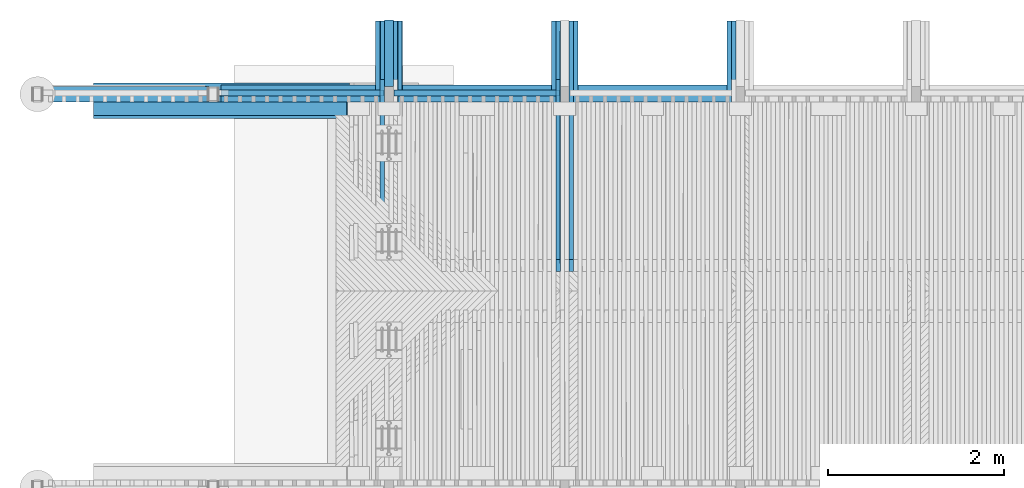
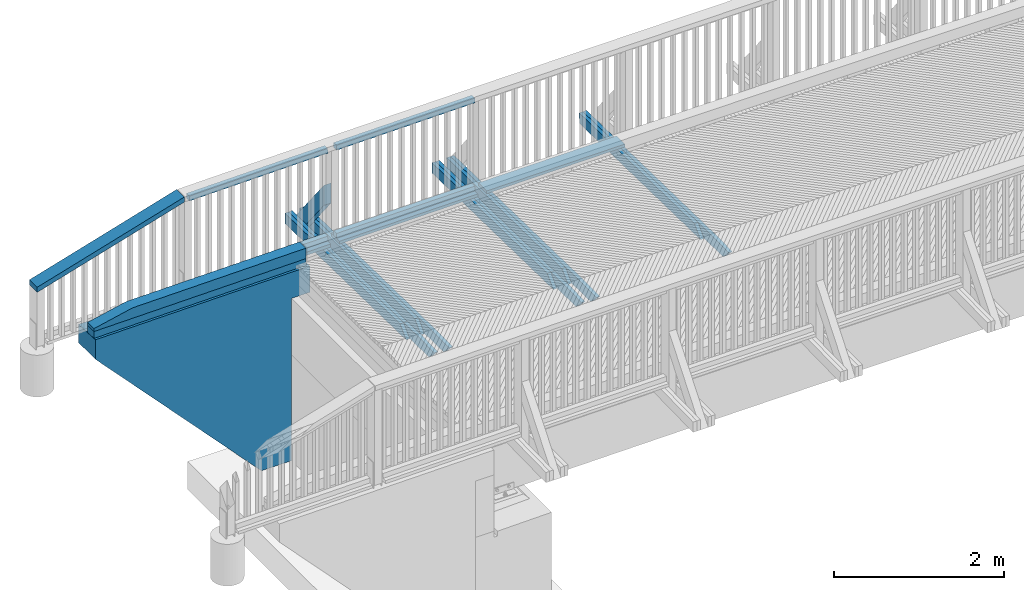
# One storey, part 21 of 53: 23 beams, 1 member.
"""IFC2X3 building model written with IfcOpenShell, lengths in millimetres."""

from ifc_helpers import new_model, si_unit, frame, origin_with_axes, place, context, subcontext, project, spatial, faceted_brep, material, type_object, element, save


model = new_model("IFC2X3")

# Units and contexts
model_context = context("Model", 3, precision=1e-05, world=origin_with_axes())
body_context = subcontext(model_context, "Body", "Model", "MODEL_VIEW")
ifc_project = project(units=[si_unit("LENGTHUNIT", "METRE", prefix="MILLI"), si_unit("AREAUNIT", "SQUARE_METRE"), si_unit("VOLUMEUNIT", "CUBIC_METRE"), si_unit("MASSUNIT", "GRAM", prefix="KILO"), si_unit("TIMEUNIT", "SECOND"), si_unit("PLANEANGLEUNIT", "RADIAN"), si_unit("SOLIDANGLEUNIT", "STERADIAN"), si_unit("THERMODYNAMICTEMPERATUREUNIT", "DEGREE_CELSIUS"), si_unit("LUMINOUSINTENSITYUNIT", "LUMEN")], contexts=[model_context])

# Site, building, storey
site_placement = place(None, origin_with_axes())
site = spatial("IfcSite", under=ifc_project, at=site_placement, Name="Undefined", CompositionType="ELEMENT")
building_placement = place(site_placement, origin_with_axes())
building = spatial("IfcBuilding", under=site, at=building_placement, Name="Undefined", CompositionType="ELEMENT")
storey_placement = place(building_placement, origin_with_axes())
storey = spatial("IfcBuildingStorey", under=building, at=storey_placement, Name="Undefined", CompositionType="ELEMENT", Elevation=0.0)

# Beams
ifc_material_1 = material(Name="TIMBER/Timber_Undefined")
beam_type_1 = type_object("IfcBeamType", Name="150*100", PredefinedType="NOTDEFINED")
beam_1_placement = place(storey_placement, frame((-3364.03058800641, 44439.9999999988, 3118.67572907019), z_axis=(0.0, -1.0, 0.0), x_axis=(0.999904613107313, 0.0, 0.0138117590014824)))
element("IfcBeam", 1, at=beam_1_placement, inside=storey, type_object=beam_type_1, material=ifc_material_1, Name="TÖRMÄYSJOHDE", ObjectType="150*100", context=body_context, shape_type="Brep", body=[
    faceted_brep([(-3.63797880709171e-12, 50.0, -75.0), (-3.63797880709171e-12, 50.0, 75.0), (2885.27521749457, 50.0, 75.0), (2885.27521749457, 50.0, -75.0), (0.0, -49.9999999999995, 75.0), (2885.27521749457, -49.9999999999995, 75.0), (0.0, -49.9999999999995, -75.0), (2885.27521749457, -49.9999999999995, -75.0)], [[[0, 1, 2, 3]], [[1, 4, 5, 2]], [[4, 6, 7, 5]], [[6, 0, 3, 7]], [[5, 7, 3, 2]], [[6, 4, 1, 0]]]),
])
beam_type_2 = type_object("IfcBeamType", Name="150*150", PredefinedType="NOTDEFINED")
beam_2_placement = place(storey_placement, frame((-3366.03588197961, 44439.9999999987, 3243.66334439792), z_axis=(0.0, -1.0, 0.0), x_axis=(0.999904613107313, 0.0, 0.0138117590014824)))
element("IfcBeam", 2, at=beam_2_placement, inside=storey, type_object=beam_type_2, material=ifc_material_1, Name="TÖRMÄYSJOHDE", ObjectType="150*150", context=body_context, shape_type="Brep", body=[
    faceted_brep([(0.0, -75.0000000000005, 75.0), (0.0, -75.0000000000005, -75.0), (2885.27521749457, -74.9999999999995, -75.0), (2885.27521749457, -74.9999999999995, 75.0), (2885.27521749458, 75.0, -75.0), (2885.27521749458, 75.0, 75.0), (529.511118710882, 75.0, -75.0), (529.511118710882, 75.0, 75.0), (4.54747350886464e-13, -33.1222400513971, 75.0), (4.54747350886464e-13, -33.1222400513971, -75.0)], [[[0, 1, 2, 3]], [[3, 2, 4, 5]], [[5, 4, 6, 7]], [[0, 3, 5, 7, 8]], [[1, 0, 8, 9]], [[4, 2, 1, 9, 6]], [[8, 7, 6, 9]]]),
])
ifc_material_2 = material(Name="CONCRETE/Concrete_Undefined")
beam_type_3 = type_object("IfcBeamType", Name="2800*400", PredefinedType="NOTDEFINED")
beam_3_placement = place(storey_placement, frame((-430.340033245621, 44530.0, 1712.66804762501), z_axis=(-0.0140428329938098, 0.0, 0.999901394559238), x_axis=(-0.999901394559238, 0.0, -0.0140428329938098)))
element("IfcBeam", 3, at=beam_3_placement, inside=storey, type_object=beam_type_3, material=ifc_material_2, Name="SIIPIMUURI", ObjectType="2800*400", context=body_context, shape_type="Brep", body=[
    faceted_brep([(5.63100911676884e-07, 200.0, 1400.0), (0.280884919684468, -200.000000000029, 1380.0), (2915.56834818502, -200.0, 1380.0), (2915.28746382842, 200.0, 1400.0), (270.457242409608, 199.999999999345, -54.8754727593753), (270.457242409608, -200.0, -54.8754727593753), (255.29098277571, -200.0, 1025.01803336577), (255.29098277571, 199.999999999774, 1025.01803336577), (288.066954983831, 200.0, -1308.75182153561), (288.066954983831, -200.0, -1308.75182153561), (697.173583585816, 200.0, -1303.00623892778), (697.173583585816, -200.0, -1303.00623892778), (2919.22031514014, 200.0, 1119.96651154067), (2919.22031514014, -200.0, 1119.96651154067), (5.31563413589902, -200.0, 1021.50732511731), (5.31563413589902, 199.999999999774, 1021.50732511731)], [[[0, 1, 2, 3]], [[4, 5, 6, 7]], [[8, 9, 5, 4]], [[10, 11, 9, 8]], [[12, 13, 11, 10]], [[13, 12, 3, 2]], [[14, 6, 5, 9, 11, 13, 2, 1]], [[7, 6, 14, 15]], [[3, 12, 10, 8, 4, 7, 15, 0]], [[15, 14, 1, 0]]]),
])

# Member
member_type = type_object("IfcMemberType", Name="180*100", PredefinedType="NOTDEFINED")
member_placement = place(storey_placement, frame((0.0063475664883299, 45378.7683991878, 2900.91787464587), z_axis=(0.0, 0.783926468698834, 0.620853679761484), x_axis=(-4.01699999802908e-06, -0.620853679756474, 0.78392646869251)))
element("IfcMember", 4, at=member_placement, inside=storey, type_object=member_type, material=ifc_material_1, Name="KAIDEPYLVÄS", ObjectType="180*100", context=body_context, shape_type="Brep", body=[
    faceted_brep([(0.0, 50.0, -89.9999999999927), (0.0, 50.0, 90.0), (1214.99440716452, 50.0, 90.0000000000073), (987.715792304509, 50.0, -89.9999999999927), (0.0, -49.9999999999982, 90.0000000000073), (1214.99480886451, -50.0, 90.0000000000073), (-3.63797880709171e-12, -49.9999999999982, -90.0), (987.716194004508, -49.9999999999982, -89.9999999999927)], [[[0, 1, 2, 3]], [[1, 4, 5, 2]], [[4, 6, 7, 5]], [[6, 0, 3, 7]], [[5, 7, 3, 2]], [[6, 4, 1, 0]]]),
])

# Beams
beam_type_4 = type_object("IfcBeamType", Name="70*70", PredefinedType="NOTDEFINED")
beam_4_placement = place(storey_placement, frame((-1909.4703719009, 44619.9900299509, 3186.87116342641), z_axis=(0.0, 1.0, 0.0), x_axis=(0.999883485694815, 0.0, 0.0152648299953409)))
element("IfcBeam", 5, at=beam_4_placement, inside=storey, type_object=beam_type_4, material=ifc_material_1, Name="BEAM", ObjectType="70*70", context=body_context, shape_type="Brep", body=[
    faceted_brep([(-3.63797880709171e-12, 35.0000000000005, -35.0), (-3.63797880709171e-12, 35.0000000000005, 35.0), (1850.22135781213, 34.9999999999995, 35.0), (1850.22135781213, 34.9999999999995, -35.0), (-3.63797880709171e-12, -34.9999999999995, 35.0), (1850.22135781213, -35.0, 35.0), (-3.63797880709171e-12, -34.9999999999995, -35.0), (1850.22135781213, -35.0, -35.0)], [[[0, 1, 2, 3]], [[1, 4, 5, 2]], [[4, 6, 7, 5]], [[6, 0, 3, 7]], [[5, 7, 3, 2]], [[6, 4, 1, 0]]]),
])
beam_5_placement = place(storey_placement, frame((-1939.46687647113, 44619.9900299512, 4446.41321852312), z_axis=(0.0, 1.0, 0.0), x_axis=(0.999883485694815, 0.0, 0.0152648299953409)))
element("IfcBeam", 6, at=beam_5_placement, inside=storey, type_object=beam_type_4, material=ifc_material_1, Name="BEAM", ObjectType="70*70", context=body_context, shape_type="Brep", body=[
    faceted_brep([(-3.63797880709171e-12, 35.0000000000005, -35.0), (-3.63797880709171e-12, 35.0000000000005, 35.0), (1880.22135781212, 35.0000000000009, 35.0), (1880.22135781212, 35.0000000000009, -35.0), (-3.63797880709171e-12, -34.9999999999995, 35.0), (1880.22135781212, -35.0, 35.0), (-3.63797880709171e-12, -34.9999999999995, -35.0), (1880.22135781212, -35.0, -35.0)], [[[0, 1, 2, 3]], [[1, 4, 5, 2]], [[4, 6, 7, 5]], [[6, 0, 3, 7]], [[5, 7, 3, 2]], [[6, 4, 1, 0]]]),
])
for number, where, z_axis, x_axis, name in (
    (7, (60.4266460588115, 44619.9900555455, 3210.38471475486), (0.0, 1.0, 0.0), (0.999925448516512, 0.0, 0.0122105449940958), "BEAM"),
    (8, (60.4266460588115, 44619.9900555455, 4475.38471475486), (0.0, 1.0, 0.0), (0.999925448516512, 0.0, 0.0122105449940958), "BEAM"),
):
    element("IfcBeam", number, at=place(storey_placement, frame(where, z_axis=z_axis, x_axis=x_axis)), inside=storey, type_object=beam_type_4, material=ifc_material_1, Name=name, ObjectType="70*70", context=body_context, shape_type="Brep", body=[
        faceted_brep([(-3.63797880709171e-12, 35.0000000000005, -35.0), (-3.63797880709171e-12, 35.0000000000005, 35.0), (1880.14172547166, 34.9999999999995, 35.0), (1880.14172547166, 34.9999999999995, -35.0), (-3.63797880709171e-12, -34.9999999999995, 35.0), (1880.14172547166, -35.0000000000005, 35.0), (-3.63797880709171e-12, -34.9999999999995, -35.0), (1880.14172547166, -35.0000000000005, -35.0)], [[[0, 1, 2, 3]], [[1, 4, 5, 2]], [[4, 6, 7, 5]], [[6, 0, 3, 7]], [[5, 7, 3, 2]], [[6, 4, 1, 0]]]),
    ])
beam_type_5 = type_object("IfcBeamType", Name="195*40", PredefinedType="NOTDEFINED")
for number, where, z_axis, x_axis, name in (
    (9, (2059.92831112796, 44612.4900002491, 3178.55418737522), (0.0, 1.0, 0.0), (0.999961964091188, 0.0, 0.00872183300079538), "BEAM"),
    (10, (60.2419045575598, 44612.4900555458, 3155.38760669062), (0.0, 1.0, 0.0), (0.999925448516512, 0.0, 0.0122105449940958), "BEAM"),
):
    element("IfcBeam", number, at=place(storey_placement, frame(where, z_axis=z_axis, x_axis=x_axis)), inside=storey, type_object=beam_type_5, material=ifc_material_1, Name=name, ObjectType="195*40", context=body_context, shape_type="Brep", body=[
        faceted_brep([(0.0, 20.0, -97.5), (0.0, 20.0, 97.5), (1880.22135781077, 19.9999999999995, 97.5), (1880.22135781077, 19.9999999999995, -97.5), (3.63797880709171e-12, -20.0, 97.5), (1880.22135781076, -20.0000000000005, 97.5), (3.63797880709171e-12, -20.0, -97.5), (1880.22135781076, -20.0000000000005, -97.5)], [[[0, 1, 2, 3]], [[1, 4, 5, 2]], [[4, 6, 7, 5]], [[6, 0, 3, 7]], [[5, 7, 3, 2]], [[6, 4, 1, 0]]]),
    ])
beam_type_6 = type_object("IfcBeamType", Name="180*70", PredefinedType="NOTDEFINED")
beam_6_placement = place(storey_placement, frame((-2039.93420243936, 44605.0099640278, 4517.05500293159), z_axis=(0.0, -1.0, 0.0), x_axis=(-0.958243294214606, 0.0, -0.285954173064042)))
element("IfcBeam", 11, at=beam_6_placement, inside=storey, type_object=beam_type_6, material=ifc_material_1, Name="YLÄJOHDE", ObjectType="180*70", context=body_context, shape_type="Brep", body=[
    faceted_brep([(41.6879268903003, 35.0699417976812, -90.0), (41.8028913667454, -34.9299637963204, -90.0), (0.059877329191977, -34.9999487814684, -90.0), (20.9594530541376, 35.0351891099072, -90.0), (41.8028913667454, -34.9299637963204, 90.0), (41.6879268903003, 35.0699417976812, 90.0), (20.9594530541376, 35.0351891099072, 90.0), (0.059877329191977, -34.9999487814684, 90.0), (83.4357358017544, 35.1370779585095, 90.0), (83.4357358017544, 35.1370779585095, -90.0), (83.5459100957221, -34.8628353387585, -90.0), (83.5459100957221, -34.8628353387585, 90.0), (125.288933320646, -34.7985634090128, 90.0), (125.183549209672, 35.2013572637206, 90.0), (125.183549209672, 35.2013572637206, -90.0), (125.288933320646, -34.7985634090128, -90.0), (167.031960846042, -34.7371480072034, -90.0), (167.031960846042, -34.7371480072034, 90.0), (166.931366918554, 35.2627797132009, 90.0), (166.931366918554, 35.2627797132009, -90.0), (208.679188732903, 35.3213453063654, -90.0), (208.774992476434, -34.6785891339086, -90.0), (208.774992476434, -34.6785891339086, 90.0), (208.679188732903, 35.3213453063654, 90.0), (250.427014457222, 35.3770540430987, 90.0), (250.427014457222, 35.3770540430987, -90.0), (250.518028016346, -34.6228867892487, -90.0), (250.518028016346, -34.6228867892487, 90.0), (292.261067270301, -34.57004097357, 90.0), (292.17484389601, 35.4299059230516, 90.0), (292.17484389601, 35.4299059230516, -90.0), (292.261067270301, -34.57004097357, -90.0), (334.004110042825, -34.5200516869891, -90.0), (334.004110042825, -34.5200516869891, 90.0), (333.922676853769, 35.4799009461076, 90.0), (333.922676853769, 35.4799009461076, -90.0), (375.670513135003, 35.527039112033, -90.0), (375.747156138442, -34.4729189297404, -90.0), (375.747156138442, -34.4729189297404, 90.0), (375.670513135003, 35.527039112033, 90.0), (417.418352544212, 35.5713204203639, 90.0), (417.418352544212, 35.5713204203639, -90.0), (417.490205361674, -34.428642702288, -90.0), (417.490205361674, -34.428642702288, 90.0), (459.233257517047, -34.3872230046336, 90.0), (459.166194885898, 35.6127448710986, 90.0), (459.166194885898, 35.6127448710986, -90.0), (459.233257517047, -34.3872230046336, -90.0), (500.976312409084, -34.3486598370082, -90.0), (500.976312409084, -34.3486598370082, 90.0), (500.914039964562, 35.651312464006, 90.0), (500.914039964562, 35.651312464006, -90.0), (542.661887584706, 35.6870231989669, -90.0), (542.71936984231, -34.3129531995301, -90.0), (542.71936984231, -34.3129531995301, 90.0), (542.661887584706, 35.6870231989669, 90.0), (584.409737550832, 35.7198770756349, 90.0), (584.409737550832, 35.7198770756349, -90.0), (584.462429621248, -34.2801030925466, -90.0), (584.462429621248, -34.2801030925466, 90.0), (626.205491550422, -34.2501095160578, 90.0), (626.157589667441, 35.7498740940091, 90.0), (626.157589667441, 35.7498740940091, -90.0), (626.205491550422, -34.2501095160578, -90.0), (667.948555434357, -34.222972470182, -90.0), (667.948555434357, -34.222972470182, 90.0), (667.905443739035, 35.777014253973, 90.0), (667.905443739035, 35.777014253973, -90.0), (709.653299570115, 35.801297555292, -90.0), (709.691621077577, -34.19869195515, -90.0), (709.691621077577, -34.19869195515, 90.0), (709.653299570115, 35.801297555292, 90.0), (751.401156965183, 35.8227239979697, 90.0), (751.401156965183, 35.8227239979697, -90.0), (751.434688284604, -34.1772679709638, -90.0), (751.434688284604, -34.1772679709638, 90.0), (793.177756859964, -34.1587005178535, 90.0), (793.14901572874, 35.8412935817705, 90.0), (793.14901572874, 35.8412935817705, -90.0), (793.177756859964, -34.1587005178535, -90.0), (834.920826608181, -34.1429895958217, -90.0), (834.920826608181, -34.1429895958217, 90.0), (834.896875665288, 35.8570063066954, 90.0), (834.896875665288, 35.8570063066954, -90.0), (876.644736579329, 35.8698621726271, -90.0), (876.663897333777, -34.1301352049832, -90.0), (876.663897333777, -34.1301352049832, 90.0), (876.644736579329, 35.8698621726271, 90.0), (918.392598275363, 35.8798611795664, 90.0), (918.392598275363, 35.8798611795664, -90.0), (918.406968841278, -34.1201373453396, -90.0), (918.406968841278, -34.1201373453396, 90.0), (960.150040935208, -34.1129960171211, 90.0), (960.140460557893, 35.8870033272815, 90.0), (960.140460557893, 35.8870033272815, -90.0), (960.150040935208, -34.1129960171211, -90.0), (1001.89311342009, -34.1087112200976, -90.0), (1001.89311342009, -34.1087112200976, 90.0), (1001.88832323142, 35.8912886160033, 90.0), (1001.88832323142, 35.8912886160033, -90.0), (1043.63618610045, 35.8927170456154, -90.0), (1043.63618610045, -34.1072829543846, -90.0), (1043.63618610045, -34.1072829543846, 90.0), (1043.63618610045, 35.8927170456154, 90.0), (1085.38404896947, 35.8912886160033, 90.0), (1085.38404896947, 35.8912886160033, -90.0), (1085.3792587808, -34.1087112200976, -90.0), (1085.3792587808, -34.1087112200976, 90.0), (1127.12233126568, -34.1129960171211, 90.0), (1127.131911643, 35.8870033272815, 90.0), (1127.131911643, 35.8870033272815, -90.0), (1127.12233126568, -34.1129960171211, -90.0), (1168.86540335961, -34.1201373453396, -90.0), (1168.86540335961, -34.1201373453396, 90.0), (1168.87977392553, 35.8798611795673, 90.0), (1168.87977392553, 35.8798611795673, -90.0), (1210.62763562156, 35.8698621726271, -90.0), (1210.60847486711, -34.1301352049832, -90.0), (1210.60847486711, -34.1301352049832, 90.0), (1210.62763562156, 35.8698621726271, 90.0), (1252.3754965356, 35.8570063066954, 90.0), (1252.3754965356, 35.8570063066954, -90.0), (1252.35154559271, -34.1429895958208, -90.0), (1252.35154559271, -34.1429895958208, 90.0), (1294.09461534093, -34.1587005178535, 90.0), (1294.12335647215, 35.8412935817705, 90.0), (1294.12335647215, 35.8412935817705, -90.0), (1294.09461534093, -34.1587005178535, -90.0), (1335.83768391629, -34.1772679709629, -90.0), (1335.83768391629, -34.1772679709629, 90.0), (1335.87121523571, 35.8227239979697, 90.0), (1335.87121523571, 35.8227239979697, -90.0), (1377.61907263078, 35.8012975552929, -90.0), (1377.58075112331, -34.1986919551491, -90.0), (1377.58075112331, -34.1986919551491, 90.0), (1377.61907263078, 35.8012975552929, 90.0), (1419.36692846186, 35.777014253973, 90.0), (1419.36692846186, 35.777014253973, -90.0), (1419.32381676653, -34.222972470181, -90.0), (1419.32381676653, -34.222972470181, 90.0), (1461.06688065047, -34.2501095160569, 90.0), (1461.11478253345, 35.7498740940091, 90.0), (1461.11478253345, 35.7498740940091, -90.0), (1461.06688065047, -34.2501095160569, -90.0), (1502.80994257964, -34.2801030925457, -90.0), (1502.80994257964, -34.2801030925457, 90.0), (1502.86263465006, 35.7198770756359, 90.0), (1502.86263465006, 35.7198770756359, -90.0), (1544.61048461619, 35.6870231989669, -90.0), (1544.55300235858, -34.3129531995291, -90.0), (1544.55300235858, -34.3129531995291, 90.0), (1544.61048461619, 35.6870231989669, 90.0), (1586.35833223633, 35.6513124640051, 90.0), (1586.35833223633, 35.6513124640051, -90.0), (1586.29605979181, -34.3486598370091, -90.0), (1586.29605979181, -34.3486598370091, 90.0), (1628.03911468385, -34.3872230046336, 90.0), (1628.10617731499, 35.6127448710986, 90.0), (1628.10617731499, 35.6127448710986, -90.0), (1628.03911468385, -34.3872230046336, -90.0), (1669.78216683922, -34.428642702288, -90.0), (1669.78216683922, -34.428642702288, 90.0), (1669.85401965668, 35.5713204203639, 90.0), (1669.85401965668, 35.5713204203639, -90.0), (1711.60185906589, 35.527039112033, -90.0), (1711.52521606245, -34.4729189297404, -90.0), (1711.52521606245, -34.4729189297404, 90.0), (1711.60185906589, 35.527039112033, 90.0), (1753.34969534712, 35.4799009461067, 90.0), (1753.34969534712, 35.4799009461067, -90.0), (1753.26826215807, -34.5200516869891, -90.0), (1753.26826215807, -34.5200516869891, 90.0), (1795.01130493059, -34.5700409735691, 90.0), (1795.09752830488, 35.4299059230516, 90.0), (1795.09752830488, 35.4299059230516, -90.0), (1795.01130493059, -34.5700409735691, -90.0), (1836.75434418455, -34.6228867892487, -90.0), (1836.75434418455, -34.6228867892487, 90.0), (1836.84535774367, 35.3770540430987, 90.0), (1836.84535774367, 35.3770540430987, -90.0), (1878.59318346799, 35.3213453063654, -90.0), (1878.49737972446, -34.6785891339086, -90.0), (1878.49737972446, -34.6785891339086, 90.0), (1878.59318346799, 35.3213453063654, 90.0), (1920.34100528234, 35.2627797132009, 90.0), (1920.34100528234, 35.2627797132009, -90.0), (1920.24041135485, -34.7371480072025, -90.0), (1920.24041135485, -34.7371480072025, 90.0), (1961.98343888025, -34.7985634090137, 90.0), (1962.08882299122, 35.2013572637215, 90.0), (1962.08882299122, 35.2013572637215, -90.0), (1961.98343888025, -34.7985634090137, -90.0), (2003.72646210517, -34.8628353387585, -90.0), (2003.72646210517, -34.8628353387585, 90.0), (2003.83663639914, 35.1370779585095, 90.0), (2003.83663639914, 35.1370779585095, -90.0), (2045.58444531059, 35.0699417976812, -90.0), (2045.46948083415, -34.9299637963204, -90.0), (2045.46948083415, -34.9299637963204, 90.0), (2045.58444531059, 35.0699417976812, 90.0), (2087.33224953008, 34.9999487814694, 90.0), (2087.33224953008, 34.9999487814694, -90.0), (2087.2124948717, -34.9999487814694, -90.0), (2087.2124948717, -34.9999487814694, 90.0), (2108.09074494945, 34.9637252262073, 90.0), (2108.09074494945, 34.9637252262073, -90.0)], [[[0, 1, 2, 3]], [[4, 5, 6, 7]], [[1, 4, 7, 2]], [[6, 3, 2, 7]], [[5, 0, 3, 6]], [[0, 5, 8, 9]], [[1, 0, 9, 10]], [[4, 1, 10, 11]], [[5, 4, 11, 8]], [[8, 11, 12, 13]], [[9, 8, 13, 14]], [[10, 9, 14, 15]], [[11, 10, 15, 12]], [[12, 15, 16, 17]], [[13, 12, 17, 18]], [[14, 13, 18, 19]], [[15, 14, 19, 16]], [[16, 19, 20, 21]], [[17, 16, 21, 22]], [[18, 17, 22, 23]], [[19, 18, 23, 20]], [[20, 23, 24, 25]], [[21, 20, 25, 26]], [[22, 21, 26, 27]], [[23, 22, 27, 24]], [[24, 27, 28, 29]], [[25, 24, 29, 30]], [[26, 25, 30, 31]], [[27, 26, 31, 28]], [[28, 31, 32, 33]], [[29, 28, 33, 34]], [[30, 29, 34, 35]], [[31, 30, 35, 32]], [[32, 35, 36, 37]], [[33, 32, 37, 38]], [[34, 33, 38, 39]], [[35, 34, 39, 36]], [[36, 39, 40, 41]], [[37, 36, 41, 42]], [[38, 37, 42, 43]], [[39, 38, 43, 40]], [[40, 43, 44, 45]], [[41, 40, 45, 46]], [[42, 41, 46, 47]], [[43, 42, 47, 44]], [[44, 47, 48, 49]], [[45, 44, 49, 50]], [[46, 45, 50, 51]], [[47, 46, 51, 48]], [[48, 51, 52, 53]], [[49, 48, 53, 54]], [[50, 49, 54, 55]], [[51, 50, 55, 52]], [[52, 55, 56, 57]], [[53, 52, 57, 58]], [[54, 53, 58, 59]], [[55, 54, 59, 56]], [[56, 59, 60, 61]], [[57, 56, 61, 62]], [[58, 57, 62, 63]], [[59, 58, 63, 60]], [[60, 63, 64, 65]], [[61, 60, 65, 66]], [[62, 61, 66, 67]], [[63, 62, 67, 64]], [[64, 67, 68, 69]], [[65, 64, 69, 70]], [[66, 65, 70, 71]], [[67, 66, 71, 68]], [[68, 71, 72, 73]], [[69, 68, 73, 74]], [[70, 69, 74, 75]], [[71, 70, 75, 72]], [[72, 75, 76, 77]], [[73, 72, 77, 78]], [[74, 73, 78, 79]], [[75, 74, 79, 76]], [[76, 79, 80, 81]], [[77, 76, 81, 82]], [[78, 77, 82, 83]], [[79, 78, 83, 80]], [[80, 83, 84, 85]], [[81, 80, 85, 86]], [[82, 81, 86, 87]], [[83, 82, 87, 84]], [[84, 87, 88, 89]], [[85, 84, 89, 90]], [[86, 85, 90, 91]], [[87, 86, 91, 88]], [[88, 91, 92, 93]], [[89, 88, 93, 94]], [[90, 89, 94, 95]], [[91, 90, 95, 92]], [[92, 95, 96, 97]], [[93, 92, 97, 98]], [[94, 93, 98, 99]], [[95, 94, 99, 96]], [[96, 99, 100, 101]], [[97, 96, 101, 102]], [[98, 97, 102, 103]], [[99, 98, 103, 100]], [[100, 103, 104, 105]], [[101, 100, 105, 106]], [[102, 101, 106, 107]], [[103, 102, 107, 104]], [[104, 107, 108, 109]], [[105, 104, 109, 110]], [[106, 105, 110, 111]], [[107, 106, 111, 108]], [[108, 111, 112, 113]], [[109, 108, 113, 114]], [[110, 109, 114, 115]], [[111, 110, 115, 112]], [[112, 115, 116, 117]], [[113, 112, 117, 118]], [[114, 113, 118, 119]], [[115, 114, 119, 116]], [[116, 119, 120, 121]], [[117, 116, 121, 122]], [[118, 117, 122, 123]], [[119, 118, 123, 120]], [[120, 123, 124, 125]], [[121, 120, 125, 126]], [[122, 121, 126, 127]], [[123, 122, 127, 124]], [[124, 127, 128, 129]], [[125, 124, 129, 130]], [[126, 125, 130, 131]], [[127, 126, 131, 128]], [[128, 131, 132, 133]], [[129, 128, 133, 134]], [[130, 129, 134, 135]], [[131, 130, 135, 132]], [[132, 135, 136, 137]], [[133, 132, 137, 138]], [[134, 133, 138, 139]], [[135, 134, 139, 136]], [[136, 139, 140, 141]], [[137, 136, 141, 142]], [[138, 137, 142, 143]], [[139, 138, 143, 140]], [[140, 143, 144, 145]], [[141, 140, 145, 146]], [[142, 141, 146, 147]], [[143, 142, 147, 144]], [[144, 147, 148, 149]], [[145, 144, 149, 150]], [[146, 145, 150, 151]], [[147, 146, 151, 148]], [[148, 151, 152, 153]], [[149, 148, 153, 154]], [[150, 149, 154, 155]], [[151, 150, 155, 152]], [[152, 155, 156, 157]], [[153, 152, 157, 158]], [[154, 153, 158, 159]], [[155, 154, 159, 156]], [[156, 159, 160, 161]], [[157, 156, 161, 162]], [[158, 157, 162, 163]], [[159, 158, 163, 160]], [[160, 163, 164, 165]], [[161, 160, 165, 166]], [[162, 161, 166, 167]], [[163, 162, 167, 164]], [[164, 167, 168, 169]], [[165, 164, 169, 170]], [[166, 165, 170, 171]], [[167, 166, 171, 168]], [[168, 171, 172, 173]], [[169, 168, 173, 174]], [[170, 169, 174, 175]], [[171, 170, 175, 172]], [[172, 175, 176, 177]], [[173, 172, 177, 178]], [[174, 173, 178, 179]], [[175, 174, 179, 176]], [[176, 179, 180, 181]], [[177, 176, 181, 182]], [[178, 177, 182, 183]], [[179, 178, 183, 180]], [[180, 183, 184, 185]], [[181, 180, 185, 186]], [[182, 181, 186, 187]], [[183, 182, 187, 184]], [[184, 187, 188, 189]], [[185, 184, 189, 190]], [[186, 185, 190, 191]], [[187, 186, 191, 188]], [[188, 191, 192, 193]], [[189, 188, 193, 194]], [[190, 189, 194, 195]], [[191, 190, 195, 192]], [[192, 195, 196, 197]], [[193, 192, 197, 198]], [[194, 193, 198, 199]], [[195, 194, 199, 196]], [[196, 199, 200, 201]], [[197, 196, 201, 202]], [[198, 197, 202, 203]], [[199, 198, 203, 200]], [[200, 203, 204]], [[201, 200, 204, 205]], [[201, 205, 202]], [[204, 203, 202, 205]]]),
])
beam_type_7 = type_object("IfcBeamType", Name="195*45", PredefinedType="NOTDEFINED")
beam_7_placement = place(storey_placement, frame((-1909.66118227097, 44612.4900299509, 3129.36970699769), z_axis=(0.0, 1.0, 0.0), x_axis=(0.999883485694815, 0.0, 0.0152648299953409)))
element("IfcBeam", 12, at=beam_7_placement, inside=storey, type_object=beam_type_7, material=ifc_material_1, Name="BEAM", ObjectType="195*45", context=body_context, shape_type="Brep", body=[
    faceted_brep([(0.0, 22.5, -97.5), (0.0, 22.5, 97.5), (1850.22135781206, 22.5, 97.5), (1850.22135781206, 22.5, -97.5), (0.0, -22.5, 97.5), (1850.22135781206, -22.5, 97.5), (0.0, -22.5, -97.5), (1850.22135781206, -22.5, -97.5)], [[[0, 1, 2, 3]], [[1, 4, 5, 2]], [[4, 6, 7, 5]], [[6, 0, 3, 7]], [[5, 7, 3, 2]], [[6, 4, 1, 0]]]),
])
beam_type_8 = type_object("IfcBeamType", Name="150*50", PredefinedType="NOTDEFINED")
beam_8_placement = place(storey_placement, frame((2125.78256806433, 45437.2106523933, 3046.00594388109), z_axis=(-0.00975672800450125, 0.019996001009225, 0.999752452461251), x_axis=(-0.000196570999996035, -0.999800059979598, 0.0199950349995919)))
element("IfcBeam", 13, at=beam_8_placement, inside=storey, type_object=beam_type_8, material=ifc_material_1, Name="BEAM", ObjectType="150*50", context=body_context, shape_type="Brep", body=[
    faceted_brep([(1.28420651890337e-08, -24.9999999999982, -74.9999999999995), (1.28420651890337e-08, 25.0000000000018, -75.0), (3298.90492234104, 25.0, -75.0), (3298.90497884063, -24.9999999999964, -75.0), (-1.28347892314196e-08, -24.9999999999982, 75.0), (-1.28347892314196e-08, 25.0, 75.0), (3074.32497546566, 25.0000000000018, 75.0), (3434.49245887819, 25.0, 60.5875365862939), (3434.49251531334, -24.9999999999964, 60.587536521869), (3074.32503029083, -25.0, 75.0000000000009)], [[[0, 1, 2, 3]], [[0, 4, 5, 1]], [[2, 1, 5, 6, 7]], [[3, 2, 7, 8]], [[4, 0, 3, 8, 9]], [[5, 4, 9, 6]], [[8, 7, 6, 9]]]),
])
beam_9_placement = place(storey_placement, frame((2075.76716394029, 45437.2106677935, 3045.51783505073), z_axis=(-0.00992284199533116, 0.0199960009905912, 0.999750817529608), x_axis=(-0.000199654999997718, -0.999800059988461, 0.0199950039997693)))
element("IfcBeam", 14, at=beam_9_placement, inside=storey, type_object=beam_type_8, material=ifc_material_1, Name="BEAM", ObjectType="150*50", context=body_context, shape_type="Brep", body=[
    faceted_brep([(1.28420651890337e-08, -24.9999999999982, -74.9999999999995), (-1.28347892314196e-08, -24.9999999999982, 75.0), (-1.28347892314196e-08, 25.0, 75.0), (1.28420651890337e-08, 25.0000000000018, -75.0), (2852.32643692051, 24.9999999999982, -75.0000000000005), (2852.32648139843, -25.0000000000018, -75.0000000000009), (2713.86938248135, -25.0000000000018, 74.9999999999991), (2713.86933800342, 25.0000000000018, 75.0)], [[[0, 1, 2, 3]], [[0, 3, 4, 5]], [[1, 0, 5, 6]], [[2, 1, 6, 7]], [[3, 2, 7, 4]], [[5, 4, 7, 6]]]),
])
beam_10_placement = place(storey_placement, frame((3875.49568343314, 45437.2106831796, 3060.54316282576), z_axis=(-0.00693292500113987, 0.0199960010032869, 0.999776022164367), x_axis=(-0.000137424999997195, -0.999800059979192, 0.0199955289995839)))
element("IfcBeam", 15, at=beam_10_placement, inside=storey, type_object=beam_type_8, material=ifc_material_1, Name="BEAM", ObjectType="150*50", context=body_context, shape_type="Brep", body=[
    faceted_brep([(1.28420651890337e-08, -24.9999999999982, -74.9999999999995), (-1.28347892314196e-08, -24.9999999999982, 75.0), (-1.28347892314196e-08, 25.0, 75.0), (1.28420651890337e-08, 25.0000000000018, -75.0), (2852.32649585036, 25.0, -74.9999999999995), (2852.32641872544, -25.0, -74.9999999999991), (2713.86931991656, -25.0, 75.0), (2713.86939704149, 24.9999999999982, 75.0000000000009)], [[[0, 1, 2, 3]], [[0, 3, 4, 5]], [[1, 0, 5, 6]], [[2, 1, 6, 7]], [[3, 2, 7, 4]], [[5, 4, 7, 6]]]),
])
beam_11_placement = place(storey_placement, frame((3925.51681778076, 45437.210667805, 3060.88172358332), z_axis=(-0.00676680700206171, 0.019996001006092, 0.999777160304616), x_axis=(-0.000135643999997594, -0.999800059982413, 0.0199955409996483)))
element("IfcBeam", 16, at=beam_11_placement, inside=storey, type_object=beam_type_8, material=ifc_material_1, Name="BEAM", ObjectType="150*50", context=body_context, shape_type="Brep", body=[
    faceted_brep([(1.28420651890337e-08, -24.9999999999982, -74.9999999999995), (1.28420651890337e-08, 25.0000000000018, -75.0), (3298.90492234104, 25.0, -75.0), (3298.90497884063, -24.9999999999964, -75.0), (-1.28347892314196e-08, -24.9999999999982, 75.0), (-1.28347892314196e-08, 25.0, 75.0), (3074.32497546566, 25.0000000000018, 75.0), (3434.49245887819, 25.0, 60.5875365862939), (3434.49251531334, -24.9999999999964, 60.587536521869), (3074.32503029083, -25.0, 75.0000000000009)], [[[0, 1, 2, 3]], [[0, 4, 5, 1]], [[2, 1, 5, 6, 7]], [[3, 2, 7, 8]], [[4, 0, 3, 8, 9]], [[5, 4, 9, 6]], [[8, 7, 6, 9]]]),
])
beam_12_placement = place(storey_placement, frame((1875.7348697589, 45437.2106831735, 3043.51582785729), z_axis=(-0.010255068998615, 0.0199960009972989, 0.999747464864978), x_axis=(-0.000203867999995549, -0.999800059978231, 0.0199949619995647)))
element("IfcBeam", 17, at=beam_12_placement, inside=storey, type_object=beam_type_8, material=ifc_material_1, Name="BEAM", ObjectType="150*50", context=body_context, shape_type="Brep", body=[
    faceted_brep([(1.28420651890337e-08, -24.9999999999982, -74.9999999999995), (-1.28347892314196e-08, -24.9999999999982, 75.0), (-1.28347892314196e-08, 25.0, 75.0), (1.28420651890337e-08, 25.0000000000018, -75.0), (2852.32649585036, 25.0, -74.9999999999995), (2852.32641872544, -25.0, -74.9999999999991), (2713.86931991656, -25.0, 75.0), (2713.86939704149, 24.9999999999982, 75.0000000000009)], [[[0, 1, 2, 3]], [[0, 3, 4, 5]], [[1, 0, 5, 6]], [[2, 1, 6, 7]], [[3, 2, 7, 4]], [[5, 4, 7, 6]]]),
])
for number, where, z_axis, x_axis, name in (
    (18, (1925.75460293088, 45437.2106677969, 3044.02060326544), (-0.0100889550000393, 0.0199960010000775, 0.9997491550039), (-0.000202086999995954, -0.999800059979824, 0.0199949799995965), "BEAM"),
    (19, (125.678660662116, 45437.2106677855, 3023.1631781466), (-0.0130787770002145, 0.0199960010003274, 0.999714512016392), (-0.000262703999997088, -0.999800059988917, 0.0199942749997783), "BEAM"),
):
    element("IfcBeam", number, at=place(storey_placement, frame(where, z_axis=z_axis, x_axis=x_axis)), inside=storey, type_object=beam_type_8, material=ifc_material_1, Name=name, ObjectType="150*50", context=body_context, shape_type="Brep", body=[
        faceted_brep([(1.28420651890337e-08, -24.9999999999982, -74.9999999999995), (1.28420651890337e-08, 25.0000000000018, -75.0), (3298.90492234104, 25.0, -75.0), (3298.90497884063, -24.9999999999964, -75.0), (-1.28347892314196e-08, -24.9999999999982, 75.0), (-1.28347892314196e-08, 25.0, 75.0), (3074.32497546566, 25.0000000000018, 75.0), (3434.49245887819, 25.0, 60.5875365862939), (3434.49251531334, -24.9999999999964, 60.587536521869), (3074.32503029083, -25.0, 75.0000000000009)], [[[0, 1, 2, 3]], [[0, 4, 5, 1]], [[2, 1, 5, 6, 7]], [[3, 2, 7, 8]], [[4, 0, 3, 8, 9]], [[5, 4, 9, 6]], [[8, 7, 6, 9]]]),
    ])
beam_13_placement = place(storey_placement, frame((-124.359382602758, 45437.2106677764, 3019.84218643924), z_axis=(-0.0135770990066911, 0.019996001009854, 0.999707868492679), x_axis=(-0.00027000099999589, -0.999800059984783, 0.0199941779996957)))
element("IfcBeam", 20, at=beam_13_placement, inside=storey, type_object=beam_type_8, material=ifc_material_1, Name="BEAM", ObjectType="150*50", context=body_context, shape_type="Brep", body=[
    faceted_brep([(1.28420651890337e-08, -24.9999999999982, -74.9999999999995), (-1.28347892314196e-08, -24.9999999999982, 75.0), (-1.28347892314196e-08, 25.0, 75.0), (1.28420651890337e-08, 25.0000000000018, -75.0), (2852.32649585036, 25.0, -74.9999999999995), (2852.32641872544, -25.0, -74.9999999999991), (2713.86931991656, -25.0, 75.0), (2713.86939704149, 24.9999999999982, 75.0000000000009)], [[[0, 1, 2, 3]], [[0, 3, 4, 5]], [[1, 0, 5, 6]], [[2, 1, 6, 7]], [[3, 2, 7, 4]], [[5, 4, 7, 6]]]),
])
beam_14_placement = place(storey_placement, frame((75.6651546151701, 45437.21066779, 3022.50887484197), z_axis=(-0.0132448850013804, 0.0199960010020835, 0.99971232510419), x_axis=(-0.000265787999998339, -0.999800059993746, 0.0199942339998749)))
element("IfcBeam", 21, at=beam_14_placement, inside=storey, type_object=beam_type_8, material=ifc_material_1, Name="BEAM", ObjectType="150*50", context=body_context, shape_type="Brep", body=[
    faceted_brep([(1.28420651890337e-08, -24.9999999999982, -74.9999999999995), (-1.28347892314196e-08, -24.9999999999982, 75.0), (-1.28347892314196e-08, 25.0, 75.0), (1.28420651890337e-08, 25.0000000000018, -75.0), (2852.32643692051, 24.9999999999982, -75.0000000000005), (2852.32648139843, -25.0000000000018, -75.0000000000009), (2713.86938248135, -25.0000000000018, 74.9999999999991), (2713.86933800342, 25.0000000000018, 75.0)], [[[0, 1, 2, 3]], [[0, 3, 4, 5]], [[1, 0, 5, 6]], [[2, 1, 6, 7]], [[3, 2, 7, 4]], [[5, 4, 7, 6]]]),
])
beam_15_placement = place(storey_placement, frame((-74.3416029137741, 45437.2106677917, 3020.51317063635), z_axis=(-0.0134109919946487, 0.0199960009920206, 0.999710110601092), x_axis=(-0.000268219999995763, -0.999800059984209, 0.0199942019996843)))
element("IfcBeam", 22, at=beam_15_placement, inside=storey, type_object=beam_type_8, material=ifc_material_1, Name="BEAM", ObjectType="150*50", context=body_context, shape_type="Brep", body=[
    faceted_brep([(1.28420651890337e-08, -24.9999999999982, -74.9999999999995), (1.28420651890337e-08, 25.0000000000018, -75.0), (3298.90492234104, 25.0, -75.0), (3298.90497884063, -24.9999999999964, -75.0), (-1.28347892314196e-08, -24.9999999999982, 75.0), (-1.28347892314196e-08, 25.0, 75.0), (3074.32497546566, 25.0000000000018, 75.0), (3434.49245887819, 25.0, 60.5875365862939), (3434.49251531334, -24.9999999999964, 60.587536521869), (3074.32503029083, -25.0, 75.0000000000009)], [[[0, 1, 2, 3]], [[0, 4, 5, 1]], [[2, 1, 5, 6, 7]], [[3, 2, 7, 8]], [[4, 0, 3, 8, 9]], [[5, 4, 9, 6]], [[8, 7, 6, 9]]]),
])
for number, where, z_axis, x_axis, name in (
    (23, (1925.61831897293, 44771.443807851, 3057.33524344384), (-0.0100889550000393, 0.0199960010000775, 0.9997491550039), (-0.000202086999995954, -0.999800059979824, 0.0199949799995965), "BEAM"),
    (24, (-74.521067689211, 44771.443807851, 3033.82729839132), (-0.0134109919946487, 0.0199960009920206, 0.999710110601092), (-0.000268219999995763, -0.999800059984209, 0.0199942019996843), "BEAM"),
):
    element("IfcBeam", number, at=place(storey_placement, frame(where, z_axis=z_axis, x_axis=x_axis)), inside=storey, type_object=beam_type_8, material=ifc_material_1, Name=name, ObjectType="150*50", context=body_context, shape_type="Brep", body=[
        faceted_brep([(1.28420651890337e-08, -24.9999999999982, -74.9999999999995), (-1.28347892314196e-08, -24.9999999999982, 75.0), (-1.28347892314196e-08, 25.0, 75.0), (1.28420651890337e-08, 25.0000000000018, -75.0), (2186.42646645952, 24.9999999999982, -74.9999999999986), (2186.42645112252, -25.0000000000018, -74.9999999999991), (2047.96935228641, -25.0000000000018, 75.0000000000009), (2047.96936762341, 24.9999999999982, 75.0000000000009)], [[[0, 1, 2, 3]], [[0, 3, 4, 5]], [[1, 0, 5, 6]], [[2, 1, 6, 7]], [[3, 2, 7, 4]], [[5, 4, 7, 6]]]),
    ])

save(model, "model.ifc")
